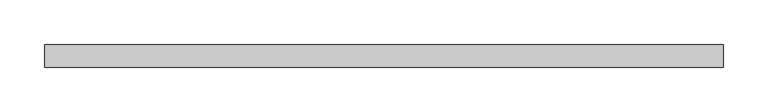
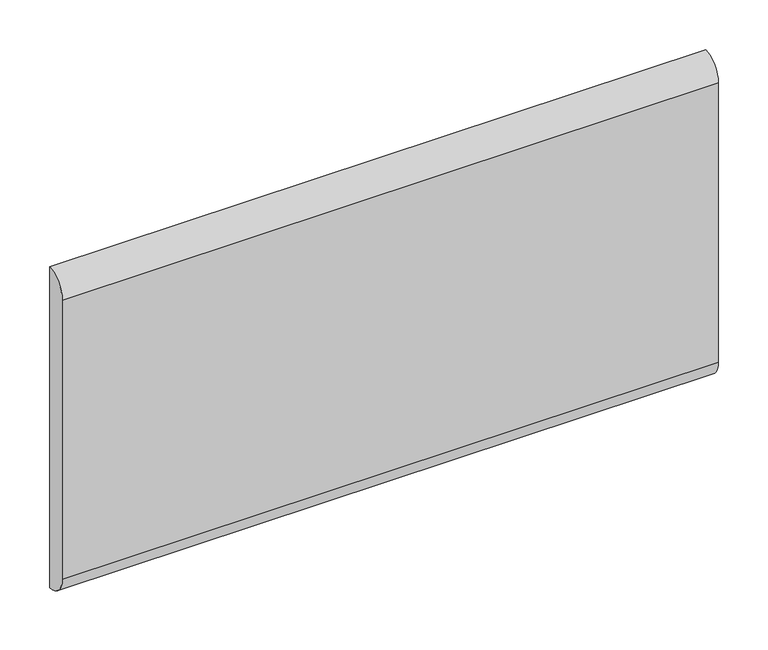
"""IFC4 building model written with IfcOpenShell, lengths in millimetres: furniture geometry."""

from ifc_helpers import new_model, si_unit, point, frame, frame_2d, origin, place, context, project, spatial, polyline, circle_curve, trimmed, segment, composite_curve, outline, extrude, source, transform, mapped, element, save


def furniture_02a821be(model_context):
    return source(origin(), model_context, "Body", "SweptSolid", [
        extrude(outline(composite_curve([segment(trimmed(circle_curve(frame_2d((12.7, 812.8)), 25.4), [point((12.7, 787.4))], [point((-12.7, 812.8))], False, "CARTESIAN"), True, "CONTINUOUS"), segment(polyline([(-12.7, 812.8), (-12.7, 1155.7)]), True, "CONTINUOUS"), segment(trimmed(circle_curve(frame_2d((12.7, 1155.7)), 25.4), [point((-12.7, 1155.7))], [point((12.7, 1181.1))], False, "CARTESIAN"), True, "CONTINUOUS"), segment(polyline([(12.7, 1181.1), (12.7, 787.4)]), True, "CONTINUOUS")], self_intersect=False)), frame((-381.0, 0.0, 0.0), z_axis=(1.0, 0.0, 0.0), x_axis=(0.0, 1.0, 0.0)), (0.0, 0.0, 1.0), 762.0),
    ])


if __name__ == "__main__":
    model = new_model("IFC4")
    model_context = context("Model", 3, world=origin())
    ifc_project = project(units=[si_unit("LENGTHUNIT", "METRE", prefix="MILLI")], contexts=[model_context])
    site = spatial("IfcSite", under=ifc_project)
    building = spatial("IfcBuilding", under=site)
    placement = place(None, origin())
    furniture_shape = furniture_02a821be(model_context)
    element("IfcFurniture", 1, ObjectType="HermanMiller_ActionOffice_A3410_B-StyleTackboard : 16\"H x 30\"W", at=placement, inside=building, context=model_context, shape_type="MappedRepresentation", body=[
        mapped(furniture_shape, transform((0.0, 0.0, 0.0), x_axis=(1.0, 0.0, 0.0), y_axis=(0.0, 1.0, 0.0), z_axis=(0.0, 0.0, 1.0))),
    ])
    save(model, "model.ifc")
